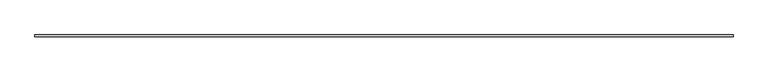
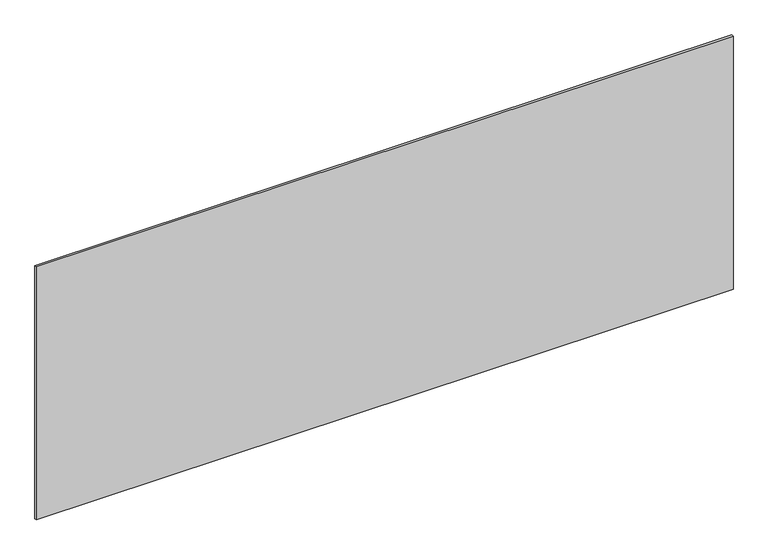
"""IFC4 building model written with IfcOpenShell, lengths in millimetres: plate geometry, システム パネル : 標準."""

from ifc_helpers import new_model, si_unit, origin, origin_with_axes, place, context, project, spatial, polyline, outline, extrude, source, transform, mapped, element, save


def plate_6d650b5f(model_context):
    return source(origin(), model_context, "Body", "SweptSolid", [
        extrude(outline(polyline([(1697.5, -5.0), (-1697.5, -5.0), (-1697.5, 5.0), (1697.5, 5.0), (1697.5, -5.0)])), origin_with_axes(), (0.0, 0.0, 1.0), 1302.8439899),
    ])


if __name__ == "__main__":
    model = new_model("IFC4")
    model_context = context("Model", 3, world=origin())
    ifc_project = project(units=[si_unit("LENGTHUNIT", "METRE", prefix="MILLI")], contexts=[model_context])
    site = spatial("IfcSite", under=ifc_project)
    building = spatial("IfcBuilding", under=site)
    placement = place(None, origin())
    plate_shape = plate_6d650b5f(model_context)
    element("IfcPlate", 1, ObjectType="システム パネル : 標準", at=placement, inside=building, context=model_context, shape_type="MappedRepresentation", body=[
        mapped(plate_shape, transform((0.0, 0.0, 0.0), x_axis=(1.0, 0.0, 0.0), y_axis=(0.0, 1.0, 0.0), z_axis=(0.0, 0.0, 1.0))),
    ])
    save(model, "model.ifc")
